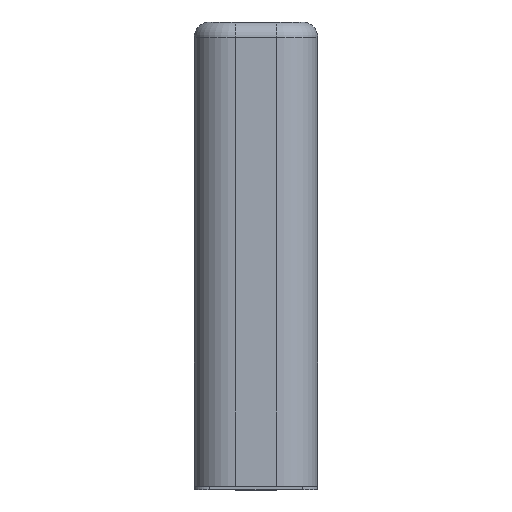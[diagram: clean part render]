
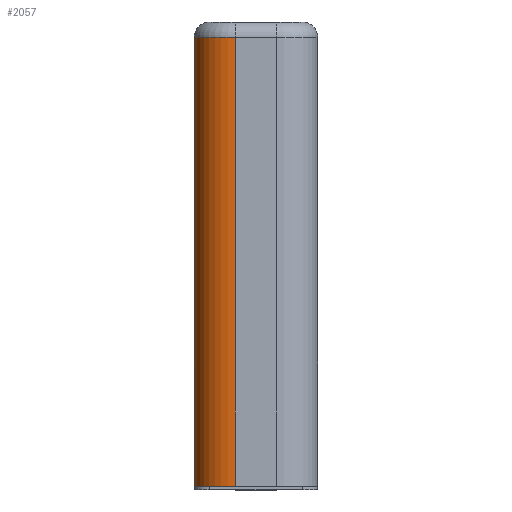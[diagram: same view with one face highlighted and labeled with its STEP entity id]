
A CAD part, top view. The second image highlights one B-rep face of the part: STEP entity #2057.
In plain terms, the highlighted cylindrical face has radius 2.667 mm (diameter 5.333 mm), a partial arc.
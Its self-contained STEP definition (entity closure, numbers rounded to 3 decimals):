
#80 = DIRECTION ( 'NONE',  ( 0., -1., 0. ) ) ;
#123 = CARTESIAN_POINT ( 'NONE',  ( -2.333, 29., -1.333 ) ) ;
#137 = VERTEX_POINT ( 'NONE', #1912 ) ;
#190 = VECTOR ( 'NONE', #2061, 1000. ) ;
#208 = CIRCLE ( 'NONE', #897, 2.667 ) ;
#226 = DIRECTION ( 'NONE',  ( 0., 0., 1. ) ) ;
#239 = EDGE_LOOP ( 'NONE', ( #2178, #2109, #820, #1241 ) ) ;
#390 = CARTESIAN_POINT ( 'NONE',  ( -5., 0., -1.333 ) ) ;
#404 = CARTESIAN_POINT ( 'NONE',  ( -2.333, 0., -1.333 ) ) ;
#530 = CARTESIAN_POINT ( 'NONE',  ( -2.333, 30., -4. ) ) ;
#537 = EDGE_CURVE ( 'NONE', #137, #969, #1380, .T. ) ;
#595 = VERTEX_POINT ( 'NONE', #2070 ) ;
#635 = DIRECTION ( 'NONE',  ( 0., -1., 0. ) ) ;
#743 = DIRECTION ( 'NONE',  ( 0., 1., 0. ) ) ;
#764 = CARTESIAN_POINT ( 'NONE',  ( -5., 30., -1.333 ) ) ;
#820 = ORIENTED_EDGE ( 'NONE', *, *, #537, .T. ) ;
#868 = EDGE_CURVE ( 'NONE', #595, #137, #1406, .T. ) ;
#871 = AXIS2_PLACEMENT_3D ( 'NONE', #123, #635, #986 ) ;
#897 = AXIS2_PLACEMENT_3D ( 'NONE', #404, #743, #226 ) ;
#969 = VERTEX_POINT ( 'NONE', #1659 ) ;
#986 = DIRECTION ( 'NONE',  ( 0., 0., 1. ) ) ;
#1068 = VECTOR ( 'NONE', #1112, 1000. ) ;
#1112 = DIRECTION ( 'NONE',  ( 0., -1., 0. ) ) ;
#1129 = LINE ( 'NONE', #764, #1068 ) ;
#1241 = ORIENTED_EDGE ( 'NONE', *, *, #2082, .T. ) ;
#1287 = CARTESIAN_POINT ( 'NONE',  ( -2.333, 30., -1.333 ) ) ;
#1292 = VERTEX_POINT ( 'NONE', #390 ) ;
#1380 = LINE ( 'NONE', #530, #190 ) ;
#1406 = CIRCLE ( 'NONE', #871, 2.667 ) ;
#1425 = CYLINDRICAL_SURFACE ( 'NONE', #1584, 2.667 ) ;
#1440 = DIRECTION ( 'NONE',  ( 0., 0., -1. ) ) ;
#1584 = AXIS2_PLACEMENT_3D ( 'NONE', #1287, #80, #1440 ) ;
#1659 = CARTESIAN_POINT ( 'NONE',  ( -2.333, 0., -4. ) ) ;
#1912 = CARTESIAN_POINT ( 'NONE',  ( -2.333, 29., -4. ) ) ;
#2009 = EDGE_CURVE ( 'NONE', #595, #1292, #1129, .T. ) ;
#2018 = FACE_OUTER_BOUND ( 'NONE', #239, .T. ) ;
#2057 = ADVANCED_FACE ( 'NONE', ( #2018 ), #1425, .T. ) ;
#2061 = DIRECTION ( 'NONE',  ( 0., -1., 0. ) ) ;
#2070 = CARTESIAN_POINT ( 'NONE',  ( -5., 29., -1.333 ) ) ;
#2082 = EDGE_CURVE ( 'NONE', #969, #1292, #208, .T. ) ;
#2109 = ORIENTED_EDGE ( 'NONE', *, *, #868, .T. ) ;
#2178 = ORIENTED_EDGE ( 'NONE', *, *, #2009, .F. ) ;
